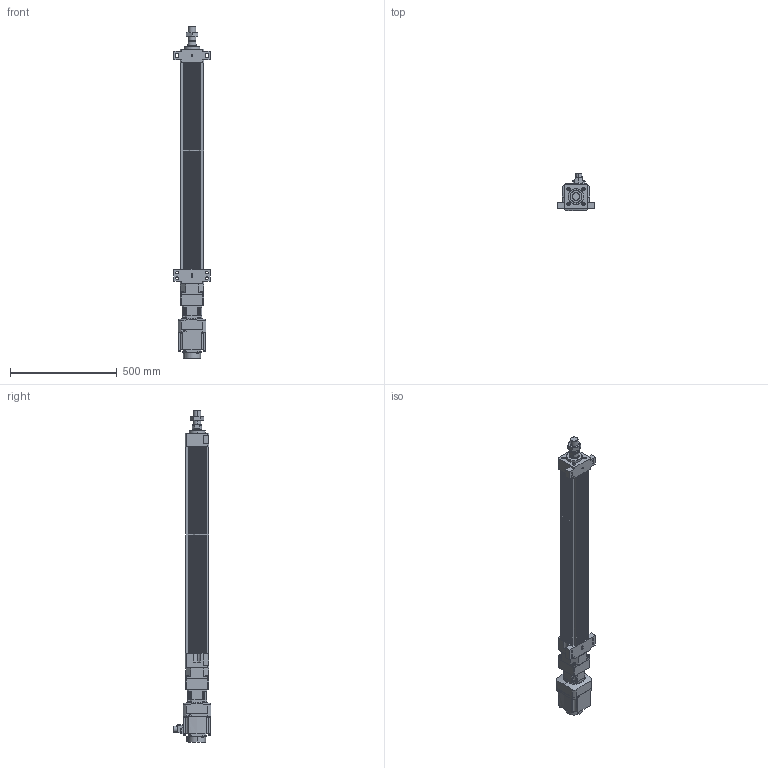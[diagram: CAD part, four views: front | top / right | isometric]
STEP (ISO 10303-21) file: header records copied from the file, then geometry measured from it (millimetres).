
FILE_DESCRIPTION (( 'STEP AP203' ), '1' );
FILE_NAME ('HES110NS(HS)-S800-W010G00-M-FFB.STEP', '2023-01-27T06:11:32', ( 'tms' ), ( '' ), 'SwSTEP 2.0', 'SolidWorks 2013', '' );
FILE_SCHEMA (( 'CONFIG_CONTROL_DESIGN' ));
Length unit declared in the file: millimetre
Products named in the file (8): HES110-S800-G090-FFB; HES110NS(HS)-S800-W010G00-M-FFB; AB0901; HES110 ROD M ST800; HG-SR102; M36X1.5P; P0401301004; AB090-003[HG-SR102B]
Assembly tree (7 placements, depth 3):
  HES110NS(HS)-S800-W010G00-M-FFB
    HES110-S800-G090-FFB
    HES110 ROD M ST800
    M36X1.5P
    AB090-003[HG-SR102B]
      AB0901
      P0401301004
    HG-SR102
Bounding box: 170 x 177.49 x 1558.5 mm (x, y, z)
Volume: 10035408.8 mm3; surface area: 1426569.2 mm2
Topology: 4 solids, 15 shells, 1189 faces, 3015 edges, 1964 vertices
Faces by surface type: plane 570, cylinder 529, cone 78, bspline 8, torus 4
Entity records: 37852 total; most frequent: CARTESIAN_POINT 7358, DIRECTION 6498, ORIENTED_EDGE 5982, EDGE_CURVE 3001, AXIS2_PLACEMENT_3D 2375, VERTEX_POINT 1964, LINE 1748, VECTOR 1748
